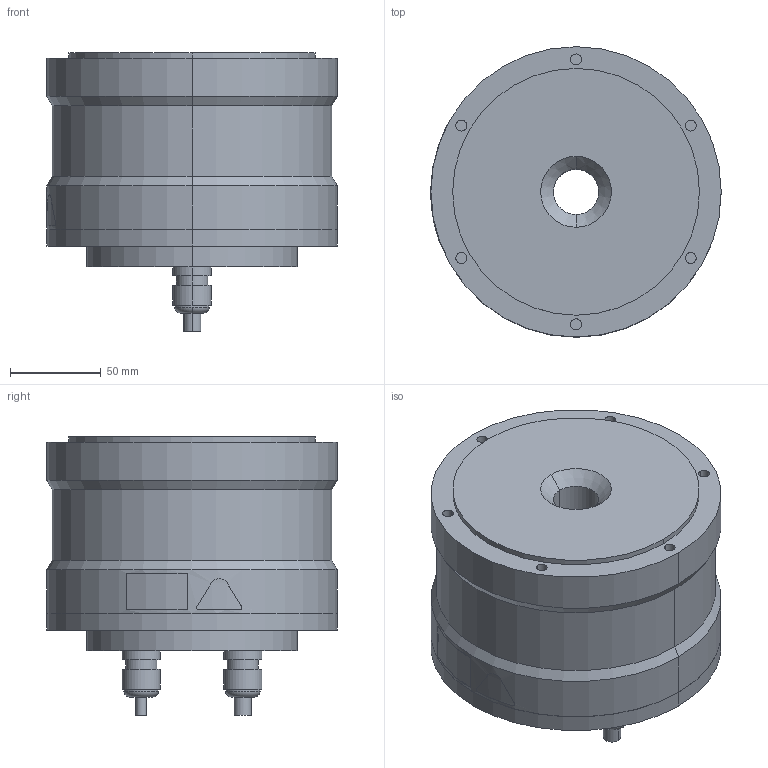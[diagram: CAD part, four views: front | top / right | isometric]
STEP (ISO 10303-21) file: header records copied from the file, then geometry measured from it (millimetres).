
FILE_DESCRIPTION (( 'STEP AP203' ), '1' );
FILE_NAME ('sgm7d_18g_c5_.STEP', '2016-02-22T09:12:56', ( '' ), ( '' ), 'SwSTEP 2.0', 'SolidWorks 2010', '' );
FILE_SCHEMA (( 'CONFIG_CONTROL_DESIGN' ));
Length unit declared in the file: millimetre
Products named in the file (1): sgm7d_18g_c5_
Bounding box: 160.06 x 160 x 153.4 mm (x, y, z)
Volume: 2131588.3 mm3; surface area: 115140.1 mm2
Topology: 1 solids, 1 shells, 211 faces, 469 edges, 308 vertices
Faces by surface type: cylinder 122, plane 74, cone 6, bspline 5, torus 4
Entity records: 6268 total; most frequent: CARTESIAN_POINT 1284, DIRECTION 1123, ORIENTED_EDGE 938, EDGE_CURVE 469, AXIS2_PLACEMENT_3D 463, VERTEX_POINT 308, EDGE_LOOP 261, CIRCLE 256
